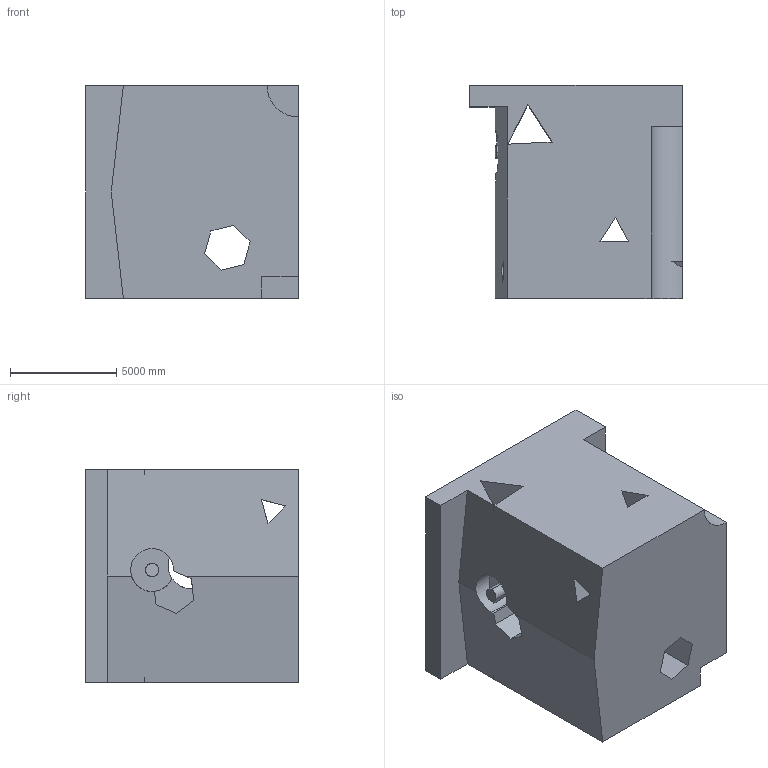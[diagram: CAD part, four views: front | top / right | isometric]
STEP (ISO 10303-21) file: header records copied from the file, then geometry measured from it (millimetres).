
FILE_DESCRIPTION (( 'STEP AP203' ), '1' );
FILE_NAME ('1969.STEP', '2022-08-23T10:05:44', ( 'user' ), ( '' ), 'SwSTEP 2.0', 'SolidWorks 2021', '' );
FILE_SCHEMA (( 'CONFIG_CONTROL_DESIGN' ));
Length unit declared in the file: centimetre
Products named in the file (1): 1969
Bounding box: 10000 x 10000 x 10000 mm (x, y, z)
Volume: 727119037516.6 mm3; surface area: 829972395.7 mm2
Topology: 1 solids, 1 shells, 51 faces, 159 edges, 106 vertices
Faces by surface type: plane 43, cylinder 8
Entity records: 1854 total; most frequent: CARTESIAN_POINT 359, ORIENTED_EDGE 318, DIRECTION 265, EDGE_CURVE 159, LINE 129, VECTOR 129, VERTEX_POINT 106, AXIS2_PLACEMENT_3D 68
